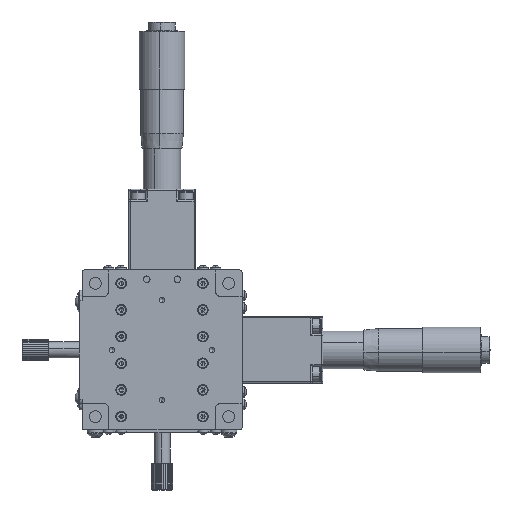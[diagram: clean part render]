
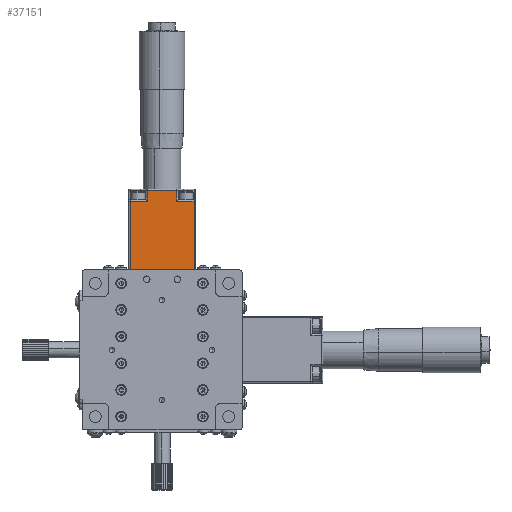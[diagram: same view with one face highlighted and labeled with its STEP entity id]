
A CAD part, front view. The second image highlights one B-rep face of the part: STEP entity #37151.
In plain terms, the highlighted planar face has unit normal (0, -1, 0).
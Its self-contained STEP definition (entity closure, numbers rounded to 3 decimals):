
#2928 = CARTESIAN_POINT ( 'NONE',  ( -0.883, 5.205, -52.51 ) ) ;
#4996 = EDGE_CURVE ( 'NONE', #52815, #51375, #13578, .T. ) ;
#5108 = ORIENTED_EDGE ( 'NONE', *, *, #4996, .T. ) ;
#5557 = DIRECTION ( 'NONE',  ( 0., 0., -1. ) ) ;
#9591 = EDGE_CURVE ( 'NONE', #60952, #43430, #41146, .T. ) ;
#9597 = CARTESIAN_POINT ( 'NONE',  ( -25.383, 5.205, -52.51 ) ) ;
#10470 = DIRECTION ( 'NONE',  ( 0., 0., 1. ) ) ;
#11600 = EDGE_CURVE ( 'NONE', #58340, #52815, #63868, .T. ) ;
#12522 = CARTESIAN_POINT ( 'NONE',  ( -7.383, 5.205, -52.51 ) ) ;
#12684 = DIRECTION ( 'NONE',  ( 0., 0., -1. ) ) ;
#13570 = CARTESIAN_POINT ( 'NONE',  ( -7.883, 5.205, -48.51 ) ) ;
#13578 = LINE ( 'NONE', #36409, #60869 ) ;
#15023 = CARTESIAN_POINT ( 'NONE',  ( -0.883, 5.205, -78.31 ) ) ;
#15620 = CARTESIAN_POINT ( 'NONE',  ( -1.383, 5.205, -78.31 ) ) ;
#16396 = DIRECTION ( 'NONE',  ( 0., 1., 0. ) ) ;
#21707 = CARTESIAN_POINT ( 'NONE',  ( -18.883, 5.205, -52.51 ) ) ;
#22013 = EDGE_CURVE ( 'NONE', #43430, #46102, #54236, .T. ) ;
#22055 = FACE_OUTER_BOUND ( 'NONE', #29650, .T. ) ;
#24912 = LINE ( 'NONE', #42128, #65362 ) ;
#25362 = VECTOR ( 'NONE', #37855, 1000. ) ;
#25782 = DIRECTION ( 'NONE',  ( -1., 0., 0. ) ) ;
#26166 = ORIENTED_EDGE ( 'NONE', *, *, #66722, .T. ) ;
#26200 = CARTESIAN_POINT ( 'NONE',  ( -1.383, 5.205, -52.51 ) ) ;
#26948 = ORIENTED_EDGE ( 'NONE', *, *, #11600, .T. ) ;
#29650 = EDGE_LOOP ( 'NONE', ( #59262, #26166, #60170, #58303, #26948, #5108, #65712, #43817 ) ) ;
#34027 = LINE ( 'NONE', #56882, #61087 ) ;
#35359 = DIRECTION ( 'NONE',  ( -1., 0., 0. ) ) ;
#36409 = CARTESIAN_POINT ( 'NONE',  ( -7.883, 5.205, -48.01 ) ) ;
#37151 = ADVANCED_FACE ( 'NONE', ( #22055 ), #44844, .F. ) ;
#37855 = DIRECTION ( 'NONE',  ( -1., 0., 0. ) ) ;
#38914 = LINE ( 'NONE', #61807, #49112 ) ;
#39223 = DIRECTION ( 'NONE',  ( 1., 0., 0. ) ) ;
#40485 = CARTESIAN_POINT ( 'NONE',  ( -18.883, 5.205, -48.51 ) ) ;
#41146 = LINE ( 'NONE', #64038, #41295 ) ;
#41295 = VECTOR ( 'NONE', #12684, 1000. ) ;
#42128 = CARTESIAN_POINT ( 'NONE',  ( -0.883, 5.205, -48.51 ) ) ;
#43430 = VERTEX_POINT ( 'NONE', #21707 ) ;
#43817 = ORIENTED_EDGE ( 'NONE', *, *, #9591, .T. ) ;
#44680 = CARTESIAN_POINT ( 'NONE',  ( -25.383, 5.205, -78.31 ) ) ;
#44844 = PLANE ( 'NONE',  #46601 ) ;
#46102 = VERTEX_POINT ( 'NONE', #9597 ) ;
#46401 = EDGE_CURVE ( 'NONE', #67035, #51102, #66381, .T. ) ;
#46601 = AXIS2_PLACEMENT_3D ( 'NONE', #67748, #16396, #39223 ) ;
#49112 = VECTOR ( 'NONE', #10470, 1000. ) ;
#49826 = EDGE_CURVE ( 'NONE', #67035, #58340, #38914, .T. ) ;
#51102 = VERTEX_POINT ( 'NONE', #44680 ) ;
#51375 = VERTEX_POINT ( 'NONE', #13570 ) ;
#52815 = VERTEX_POINT ( 'NONE', #63353 ) ;
#54236 = LINE ( 'NONE', #2928, #70565 ) ;
#56882 = CARTESIAN_POINT ( 'NONE',  ( -25.383, 5.205, -48.01 ) ) ;
#58303 = ORIENTED_EDGE ( 'NONE', *, *, #49826, .T. ) ;
#58340 = VERTEX_POINT ( 'NONE', #26200 ) ;
#59262 = ORIENTED_EDGE ( 'NONE', *, *, #22013, .T. ) ;
#59277 = DIRECTION ( 'NONE',  ( 0., 0., 1. ) ) ;
#60170 = ORIENTED_EDGE ( 'NONE', *, *, #46401, .F. ) ;
#60541 = VECTOR ( 'NONE', #35359, 1000. ) ;
#60869 = VECTOR ( 'NONE', #59277, 1000. ) ;
#60952 = VERTEX_POINT ( 'NONE', #40485 ) ;
#61087 = VECTOR ( 'NONE', #5557, 1000. ) ;
#61807 = CARTESIAN_POINT ( 'NONE',  ( -1.383, 5.205, -52.01 ) ) ;
#62044 = EDGE_CURVE ( 'NONE', #51375, #60952, #24912, .T. ) ;
#63353 = CARTESIAN_POINT ( 'NONE',  ( -7.883, 5.205, -52.51 ) ) ;
#63868 = LINE ( 'NONE', #12522, #60541 ) ;
#64038 = CARTESIAN_POINT ( 'NONE',  ( -18.883, 5.205, -48.01 ) ) ;
#65023 = DIRECTION ( 'NONE',  ( -1., 0., 0. ) ) ;
#65362 = VECTOR ( 'NONE', #65023, 1000. ) ;
#65712 = ORIENTED_EDGE ( 'NONE', *, *, #62044, .T. ) ;
#66381 = LINE ( 'NONE', #15023, #25362 ) ;
#66722 = EDGE_CURVE ( 'NONE', #46102, #51102, #34027, .T. ) ;
#67035 = VERTEX_POINT ( 'NONE', #15620 ) ;
#67748 = CARTESIAN_POINT ( 'NONE',  ( -0.883, 5.205, -48.01 ) ) ;
#70565 = VECTOR ( 'NONE', #25782, 1000. ) ;
